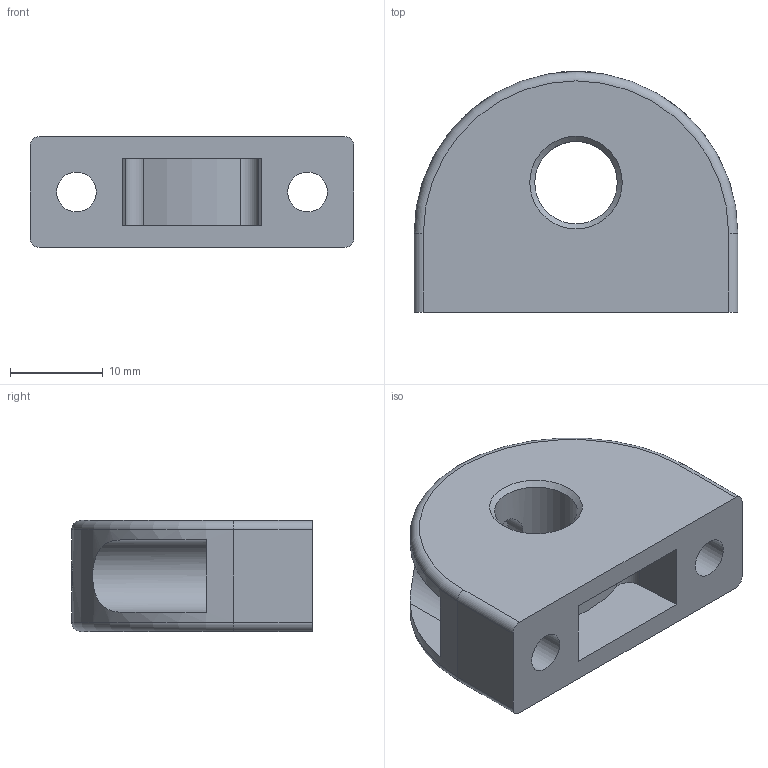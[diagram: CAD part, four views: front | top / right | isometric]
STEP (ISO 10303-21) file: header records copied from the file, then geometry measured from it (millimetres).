
FILE_DESCRIPTION( ( 'STEP AP203' ), '1' );
FILE_NAME( 'C:/Temp/Ganter_Step_05_03_2020/data/3_1/gn412_1/Mounting block GN 412.1-35-M10x1-1.stp', '2020-03-12T08:30:51', ( 'License CC BY-ND 4.0' ), ( 'CADENAS' ), ' ', 'PARTsolutions', ' ' );
FILE_SCHEMA( ( 'CONFIG_CONTROL_DESIGN' ) );
Length unit declared in the file: millimetre
Products named in the file (1): _Mounting block GN 412.1-35-M10x1-1
Bounding box: 35 x 26 x 12 mm (x, y, z)
Volume: 6157.4 mm3; surface area: 3961.2 mm2
Topology: 1 solids, 1 shells, 51 faces, 114 edges, 72 vertices
Faces by surface type: plane 27, cylinder 17, cone 5, torus 2
Full cylindrical faces by diameter (mm): 2.5 x1, 4 x2, 4.3 x2, 7.8 x2, 8.917 x1, 10.2 x1
Entity records: 1570 total; most frequent: CARTESIAN_POINT 402, DIRECTION 242, ORIENTED_EDGE 200, EDGE_CURVE 100, AXIS2_PLACEMENT_3D 94, EDGE_LOOP 78, VERTEX_POINT 72, FACE_OUTER_BOUND 60
